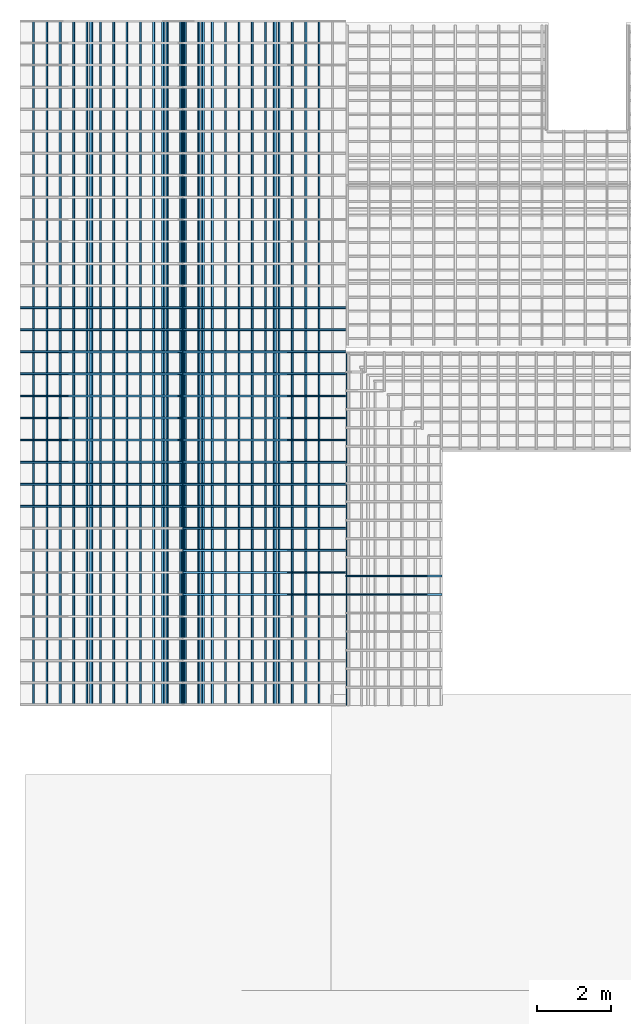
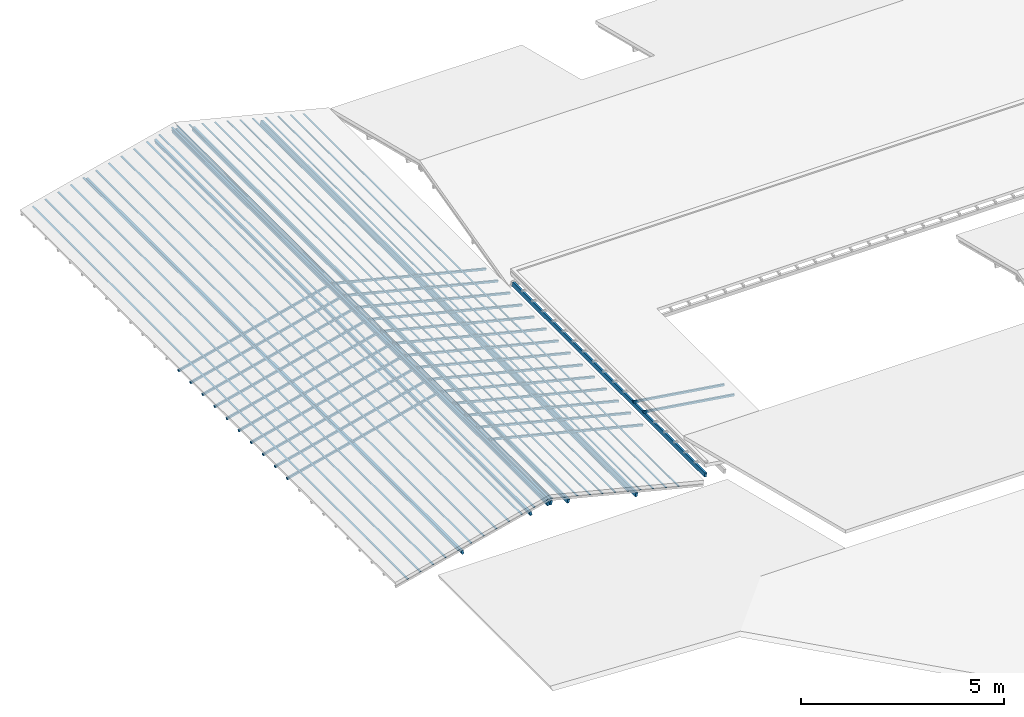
# One storey, part 3 of 10: 56 members, 5 elements without a shape of their own.
"""IFC2X3 building model written with IfcOpenShell, lengths in metres."""

import ifcopenshell
import ifcopenshell.guid

model = None  # the IFC model being written
_history = None  # IfcOwnerHistory: only IFC2X3 demands one
_inside = {}  # id of a spatial element -> (the spatial element, [elements in it])
_under = {}  # id of a project, library or spatial element -> (it, [spatial elements below it])
_declared = {}  # id of a project -> (the project, [libraries it declares])
_typed = {}  # id of a type object -> (the type object, [elements of that type])
_made_of = {}  # id of a material, layer set ... -> (it, [elements and type objects made of it])


def new_model(schema):
    """Start an empty IFC model of exactly this schema.

    Asked for "IFC4X3", IfcOpenShell would pick the latest addendum, in which some entities
    have other attributes; the version numbers below select the first issue.
    IFC2X3 requires an IfcOwnerHistory on every rooted entity: one is made here for all.
    """
    global model, _history
    if schema == "IFC4X3":
        model = ifcopenshell.file(schema_version=(4, 3, 0, 0))
    else:
        model = ifcopenshell.file(schema=schema)
    _inside.clear()
    _under.clear()
    _declared.clear()
    _typed.clear()
    _made_of.clear()
    _history = None
    if model.schema == "IFC2X3":
        org = make("IfcOrganization", Name="unknown")
        user = make(
            "IfcPersonAndOrganization",
            ThePerson=make("IfcPerson", FamilyName="unknown"),
            TheOrganization=org,
        )
        app = make(
            "IfcApplication",
            ApplicationDeveloper=org,
            Version="unknown",
            ApplicationFullName="unknown",
            ApplicationIdentifier="unknown",
        )
        _history = make(
            "IfcOwnerHistory",
            OwningUser=user,
            OwningApplication=app,
            ChangeAction="ADDED",
            CreationDate=0,
        )
    return model


def make(cls, **values):
    """One entity of the class cls with the attributes given. An attribute that is None is left unset."""
    return model.create_entity(
        cls, **{name: value for name, value in values.items() if value is not None}
    )


def entity(cls, *values):
    """Any entity or typed value of the class cls, its attributes in the order of the schema. None: left unset."""
    e = model.create_entity(cls)
    for i, value in enumerate(values):
        if value is not None:
            e[i] = value
    return e


def rooted(cls, **values):
    """An entity with a GlobalId (a new one), such as an element, a storey or a relation."""
    return make(cls, GlobalId=ifcopenshell.guid.new(), OwnerHistory=_history, **values)


def si_unit(unit_type, name, prefix=None):
    """IfcSIUnit, for example si_unit("LENGTHUNIT", "METRE", prefix="MILLI")."""
    return make("IfcSIUnit", UnitType=unit_type, Prefix=prefix, Name=name)


def converted_unit(unit_type, name, factor, base, dimensions=None, offset=None):
    """IfcConversionBasedUnit, such as the inch: factor (a typed value) times the base unit."""
    return make(
        "IfcConversionBasedUnit"
        if offset is None
        else "IfcConversionBasedUnitWithOffset",
        ConversionOffset=offset,
        Dimensions=None
        if dimensions is None
        else entity("IfcDimensionalExponents", *dimensions),
        UnitType=unit_type,
        Name=name,
        ConversionFactor=make(
            "IfcMeasureWithUnit", ValueComponent=factor, UnitComponent=base
        ),
    )


def derived_unit(unit_type, elements):
    """IfcDerivedUnit: a product of units, each with its exponent."""
    return make(
        "IfcDerivedUnit",
        Elements=[
            make("IfcDerivedUnitElement", Unit=unit, Exponent=power)
            for unit, power in elements
        ],
        UnitType=unit_type,
    )


def assignment(units):
    """IfcUnitAssignment: the units of a project."""
    return None if units is None else make("IfcUnitAssignment", Units=units)


def point(xyz):
    """IfcCartesianPoint."""
    return None if xyz is None else make("IfcCartesianPoint", Coordinates=xyz)


def direction(xyz):
    """IfcDirection."""
    return None if xyz is None else make("IfcDirection", DirectionRatios=xyz)


def frame(location, z_axis=None, x_axis=None):
    """IfcAxis2Placement3D, a coordinate frame: its origin and axes. An axis left out is left unset."""
    return make(
        "IfcAxis2Placement3D",
        Location=point(location),
        Axis=direction(z_axis),
        RefDirection=direction(x_axis),
    )


def frame_2d(location, x_axis=None):
    """IfcAxis2Placement2D, a coordinate frame in the plane: its origin and x axis."""
    return make(
        "IfcAxis2Placement2D", Location=point(location), RefDirection=direction(x_axis)
    )


def origin():
    """The frame at (0, 0, 0) with its axes left unset."""
    return frame((0.0, 0.0, 0.0))


def origin_2d_with_axis():
    """The frame at (0, 0) in the plane with the x axis (1, 0) written out."""
    return frame_2d((0.0, 0.0), x_axis=(1.0, 0.0))


def place(relative_to, where):
    """IfcLocalPlacement: puts the frame where relative to a parent placement (None: the world)."""
    return make(
        "IfcLocalPlacement", PlacementRelTo=relative_to, RelativePlacement=where
    )


def context(
    kind, dimensions, precision=None, world=None, true_north=None, identifier=None
):
    """IfcGeometricRepresentationContext, for example the 3D "Model" context."""
    return make(
        "IfcGeometricRepresentationContext",
        ContextIdentifier=identifier,
        ContextType=kind,
        CoordinateSpaceDimension=dimensions,
        Precision=precision,
        WorldCoordinateSystem=world,
        TrueNorth=true_north,
    )


def subcontext(parent, identifier, kind, view, scale=None):
    """IfcGeometricRepresentationSubContext, for example "Body" below "Model"."""
    return make(
        "IfcGeometricRepresentationSubContext",
        ContextIdentifier=identifier,
        ContextType=kind,
        ParentContext=parent,
        TargetScale=scale,
        TargetView=view,
    )


def project(units=None, contexts=None):
    """IfcProject with its units and contexts."""
    return rooted(
        "IfcProject",
        Name="project",
        RepresentationContexts=contexts,
        UnitsInContext=assignment(units),
    )


def spatial(cls, under=None, at=None, **own):
    """A site, building, storey or space (cls), placed at a placement, below another one or the project."""
    s = rooted(cls, ObjectPlacement=at, **own)
    if under is not None:
        _under.setdefault(under.id(), (under, []))[1].append(s)
    return s


def profile(cls, at=None, kind="AREA", **sizes):
    """A parametric profile (cls). Its sizes go by their IFC names, for example OverallWidth=200.0."""
    return make(cls, ProfileType=kind, Position=at, **sizes)


def rectangle(**sizes):
    """IfcRectangleProfileDef."""
    return profile("IfcRectangleProfileDef", **sizes)


def extrude(swept, where, along, depth):
    """IfcExtrudedAreaSolid: the profile swept, set in the frame where, extruded along a direction by depth."""
    return make(
        "IfcExtrudedAreaSolid",
        SweptArea=swept,
        Position=where,
        ExtrudedDirection=direction(along),
        Depth=depth,
    )


def clip(a, b, op="DIFFERENCE"):
    """IfcBooleanClippingResult: the solid a cut by the half space b."""
    return make(
        "IfcBooleanClippingResult", Operator=op, FirstOperand=a, SecondOperand=b
    )


def halfspace(plane, agree):
    """IfcHalfSpaceSolid: all space on one side of the plane z = 0 of the frame plane."""
    return make(
        "IfcHalfSpaceSolid",
        BaseSurface=make("IfcPlane", Position=plane),
        AgreementFlag=agree,
    )


def shape(context_of_items, identifier, shape_type, items):
    """IfcShapeRepresentation: the items that make up one representation, for example the "Body"."""
    return make(
        "IfcShapeRepresentation",
        ContextOfItems=context_of_items,
        RepresentationIdentifier=identifier,
        RepresentationType=shape_type,
        Items=items,
    )


def source(mapping_origin, context_of_items, identifier, shape_type, items):
    """IfcRepresentationMap: a shape defined once, which mapped items show again and again."""
    return make(
        "IfcRepresentationMap",
        MappingOrigin=mapping_origin,
        MappedRepresentation=shape(context_of_items, identifier, shape_type, items),
    )


def transform(
    local_origin,
    x_axis=None,
    y_axis=None,
    z_axis=None,
    scale=None,
    scale2=None,
    scale3=None,
    uniform=True,
):
    """IfcCartesianTransformationOperator3D, or its non-uniform kind. x_axis, y_axis, z_axis: its Axis1, 2, 3."""
    if uniform:
        return make(
            "IfcCartesianTransformationOperator3D",
            Axis1=direction(x_axis),
            Axis2=direction(y_axis),
            LocalOrigin=point(local_origin),
            Scale=scale,
            Axis3=direction(z_axis),
        )
    return make(
        "IfcCartesianTransformationOperator3DnonUniform",
        Axis1=direction(x_axis),
        Axis2=direction(y_axis),
        LocalOrigin=point(local_origin),
        Scale=scale,
        Axis3=direction(z_axis),
        Scale2=scale2,
        Scale3=scale3,
    )


def mapped(mapping_source, mapping_target):
    """IfcMappedItem: shows the shape of a source again, moved by a transform."""
    return make(
        "IfcMappedItem", MappingSource=mapping_source, MappingTarget=mapping_target
    )


def material(Name=None, Category=None):
    """IfcMaterial."""
    return make("IfcMaterial", Name=Name, Category=Category)


def made_of(thing, what):
    """Note that an element or type object is made of a material, layer set ...; save() writes the relation."""
    if what is not None:
        _made_of.setdefault(what.id(), (what, []))[1].append(thing)
    return thing


def type_object(cls, material=None, **own):
    """A type object (cls), such as IfcWallType, which elements share."""
    return made_of(rooted(cls, **own), material)


def type_shapes(of_type, sources):
    """Give a type object the sources (RepresentationMaps) that its elements show as mapped items."""
    of_type.RepresentationMaps = sources


def element(
    cls,
    number,
    at=None,
    inside=None,
    cuts=None,
    type_object=None,
    material=None,
    context=None,
    identifier="Body",
    shape_type=None,
    held_by="IfcProductDefinitionShape",
    body=None,
    shapes=None,
    **own,
):
    """One element of the class cls, such as IfcWall. Its Tag is "e" and its number.

    at: its placement. inside: the storey or other place that contains it. cuts: it is an
    opening in that element (IfcRelVoidsElement). A single representation is given by context,
    identifier, shape_type and body (its items); several are given by shapes. held_by: the class
    of the entity that holds the representations. save() writes the other relations.
    """
    e = rooted(cls, Tag="e%d" % number, ObjectPlacement=at, **own)
    if body is not None:
        shapes = [shape(context, identifier, shape_type, body)]
    if shapes is not None:
        e.Representation = make(held_by, Representations=shapes)
    if inside is not None:
        _inside.setdefault(inside.id(), (inside, []))[1].append(e)
    if cuts is not None:
        rooted(
            "IfcRelVoidsElement", RelatingBuildingElement=cuts, RelatedOpeningElement=e
        )
    if type_object is not None:
        _typed.setdefault(type_object.id(), (type_object, []))[1].append(e)
    return made_of(e, material)


def aggregate(whole, parts):
    """IfcRelAggregates: a whole, such as a stair, and the parts it consists of."""
    return rooted("IfcRelAggregates", RelatingObject=whole, RelatedObjects=parts)


def save(model, path):
    """Write the relations noted so far, then the file.

    IfcRelAggregates (storeys below a building ...), IfcRelContainedInSpatialStructure (elements
    in a storey), IfcRelDefinesByType, IfcRelAssociatesMaterial and IfcRelDeclares: one each for
    every whole, place, type object, material and project.
    """
    for whole, parts in _under.values():
        aggregate(whole, parts)
    for where, things in _inside.values():
        rooted(
            "IfcRelContainedInSpatialStructure",
            RelatedElements=things,
            RelatingStructure=where,
        )
    for kind, things in _typed.values():
        rooted("IfcRelDefinesByType", RelatedObjects=things, RelatingType=kind)
    for what, things in _made_of.values():
        rooted("IfcRelAssociatesMaterial", RelatedObjects=things, RelatingMaterial=what)
    for by, libraries in _declared.values():
        rooted("IfcRelDeclares", RelatingContext=by, RelatedDefinitions=libraries)
    model.write(path)


model = new_model("IFC2X3")

# Units and contexts
model_context = context("Model", 3, precision=1e-05, world=origin(), true_north=direction((6.12303176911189e-17, 1.0)))
body_context = subcontext(model_context, "Body", "Model", "MODEL_VIEW")
ifc_project = project(units=[si_unit("LENGTHUNIT", "METRE"), si_unit("AREAUNIT", "SQUARE_METRE"), si_unit("VOLUMEUNIT", "CUBIC_METRE"), converted_unit("PLANEANGLEUNIT", "DEGREE", entity("IfcRatioMeasure", 0.0174532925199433), si_unit("PLANEANGLEUNIT", "RADIAN"), dimensions=[0, 0, 0, 0, 0, 0, 0]), si_unit("MASSUNIT", "GRAM", prefix="KILO"), derived_unit("MASSDENSITYUNIT", [(si_unit("MASSUNIT", "GRAM", prefix="KILO"), 1), (si_unit("LENGTHUNIT", "METRE"), -3)]), si_unit("TIMEUNIT", "SECOND"), si_unit("FREQUENCYUNIT", "HERTZ"), si_unit("THERMODYNAMICTEMPERATUREUNIT", "DEGREE_CELSIUS"), derived_unit("THERMALTRANSMITTANCEUNIT", [(si_unit("MASSUNIT", "GRAM", prefix="KILO"), 1), (si_unit("THERMODYNAMICTEMPERATUREUNIT", "KELVIN"), -1), (si_unit("TIMEUNIT", "SECOND"), -3)]), derived_unit("VOLUMETRICFLOWRATEUNIT", [(si_unit("LENGTHUNIT", "METRE"), 3), (si_unit("TIMEUNIT", "SECOND"), -1)]), si_unit("ELECTRICCURRENTUNIT", "AMPERE"), si_unit("ELECTRICVOLTAGEUNIT", "VOLT"), si_unit("POWERUNIT", "WATT"), si_unit("FORCEUNIT", "NEWTON", prefix="KILO"), si_unit("ILLUMINANCEUNIT", "LUX"), si_unit("LUMINOUSFLUXUNIT", "LUMEN"), si_unit("LUMINOUSINTENSITYUNIT", "CANDELA"), derived_unit("USERDEFINED", [(si_unit("MASSUNIT", "GRAM", prefix="KILO"), -1), (si_unit("LENGTHUNIT", "METRE"), -2), (si_unit("TIMEUNIT", "SECOND"), 3), (si_unit("LUMINOUSFLUXUNIT", "LUMEN"), 1)]), derived_unit("LINEARVELOCITYUNIT", [(si_unit("LENGTHUNIT", "METRE"), 1), (si_unit("TIMEUNIT", "SECOND"), -1)]), si_unit("PRESSUREUNIT", "PASCAL"), derived_unit("USERDEFINED", [(si_unit("LENGTHUNIT", "METRE"), -2), (si_unit("MASSUNIT", "GRAM", prefix="KILO"), 1), (si_unit("TIMEUNIT", "SECOND"), -2)])], contexts=[model_context])

# Site, building, storey
site_placement = place(None, frame((26.9889013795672, -17.5624287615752, 0.0)))
site = spatial("IfcSite", under=ifc_project, at=site_placement, Name="Default", CompositionType="ELEMENT")
building_placement = place(site_placement, origin())
building = spatial("IfcBuilding", under=site, at=building_placement, Name="C. C. L. Monsenhor Antônio Sampaio", CompositionType="ELEMENT")
storey_placement = place(building_placement, frame((0.0, 0.0, 4.3)))
storey = spatial("IfcBuildingStorey", under=building, at=storey_placement, Name="COBERTURA BLOCO 01", CompositionType="ELEMENT", Elevation=4.3)

# Roof, members
curtain_wall_type_1 = type_object("IfcCurtainWallType", PredefinedType="NOTDEFINED")
roof_1_placement = place(storey_placement, frame((0.0, 0.0, -4.3)))
roof_1 = element("IfcRoof", 1, at=roof_1_placement, inside=storey, type_object=curtain_wall_type_1, ShapeType="NOTDEFINED")
ifc_material = material(Name=".Madeira")
member_type_1 = type_object("IfcMemberType", Name="Terça", PredefinedType="MEMBER")
shared_shape_1 = source(origin(), body_context, "Body", "SweptSolid", [
    extrude(rectangle(XDim=0.12, YDim=0.0599999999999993, at=origin_2d_with_axis()), frame((-0.0299999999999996, -0.06, -18.4961739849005), z_axis=(0.0, 0.0, 1.0), x_axis=(0.0, -1.0, 0.0)), (0.0, 0.0, 1.0), 18.4961739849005),
])
type_shapes(member_type_1, [shared_shape_1])
member_1_placement = place(storey_placement, frame((-10.2441903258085, -7.95689236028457, 1.09909049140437), z_axis=(0.0, 1.0, 0.0), x_axis=(0.970142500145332, 0.0, 0.242535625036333)))
member_1 = element("IfcMember", 2, at=member_1_placement, type_object=member_type_1, material=ifc_material, Name="Rectangular Mullion:Terça", ObjectType="Terça", context=body_context, shape_type="MappedRepresentation", body=[
    mapped(shared_shape_1, transform((0.0, 0.0, 0.0), scale=1.0)),
])
member_2_placement = place(storey_placement, frame((-10.2441903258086, -26.4530663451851, 1.09909049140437), z_axis=(0.0, -1.0, 0.0), x_axis=(-0.970142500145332, 0.0, 0.242535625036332)))
member_2 = element("IfcMember", 3, at=member_2_placement, type_object=member_type_1, material=ifc_material, Name="Rectangular Mullion:Terça", ObjectType="Terça", context=body_context, shape_type="MappedRepresentation", body=[
    mapped(shared_shape_1, transform((0.0, 0.0, 0.0), scale=1.0)),
])
member_type_2 = type_object("IfcMemberType", Name="Terça", PredefinedType="MEMBER")
shared_shape_2 = source(origin(), body_context, "Body", "SweptSolid", [
    extrude(rectangle(XDim=0.12, YDim=0.0599999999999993, at=origin_2d_with_axis()), frame((0.0, -0.06, -18.4961739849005), z_axis=(0.0, 0.0, 1.0), x_axis=(0.0, -1.0, 0.0)), (0.0, 0.0, 1.0), 18.4961739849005),
])
type_shapes(member_type_2, [shared_shape_2])
member_3_placement = place(storey_placement, frame((-12.7051180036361, -7.95689236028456, 0.483858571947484), z_axis=(0.0, 1.0, 0.0), x_axis=(0.970142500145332, 0.0, 0.242535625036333)))
member_3 = element("IfcMember", 4, at=member_3_placement, type_object=member_type_2, material=ifc_material, Name="Rectangular Mullion:Terça", ObjectType="Terça", context=body_context, shape_type="MappedRepresentation", body=[
    mapped(shared_shape_2, transform((0.0, 0.0, 0.0), scale=1.0)),
])
member_4_placement = place(storey_placement, frame((-10.7648330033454, -7.95689236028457, 0.96892982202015), z_axis=(0.0, 1.0, 0.0), x_axis=(0.970142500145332, 0.0, 0.242535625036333)))
member_4 = element("IfcMember", 5, at=member_4_placement, type_object=member_type_2, material=ifc_material, Name="Rectangular Mullion:Terça", ObjectType="Terça", context=body_context, shape_type="MappedRepresentation", body=[
    mapped(shared_shape_2, transform((0.0, 0.0, 0.0), scale=1.0)),
])
member_5_placement = place(storey_placement, frame((-7.783262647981, -26.4530663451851, 0.483858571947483), z_axis=(0.0, -1.0, 0.0), x_axis=(-0.970142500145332, 0.0, 0.242535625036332)))
member_5 = element("IfcMember", 6, at=member_5_placement, type_object=member_type_2, material=ifc_material, Name="Rectangular Mullion:Terça", ObjectType="Terça", context=body_context, shape_type="MappedRepresentation", body=[
    mapped(shared_shape_2, transform((0.0, 0.0, 0.0), scale=1.0)),
])
member_6_placement = place(storey_placement, frame((-9.72354764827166, -26.4530663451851, 0.968929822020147), z_axis=(0.0, -1.0, 0.0), x_axis=(-0.970142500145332, 0.0, 0.242535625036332)))
member_6 = element("IfcMember", 7, at=member_6_placement, type_object=member_type_2, material=ifc_material, Name="Rectangular Mullion:Terça", ObjectType="Terça", context=body_context, shape_type="MappedRepresentation", body=[
    mapped(shared_shape_2, transform((0.0, 0.0, 0.0), scale=1.0)),
])
aggregate(roof_1, [member_1, member_3, member_4, member_2, member_5, member_6])

# Roof, member
roof_2_placement = place(storey_placement, frame((0.0, 0.0, -4.3)))
roof_2 = element("IfcRoof", 8, at=roof_2_placement, inside=storey, type_object=curtain_wall_type_1, ShapeType="NOTDEFINED")
member_type_3 = type_object("IfcMemberType", Name="Terça", PredefinedType="MEMBER")
shared_shape_3 = source(origin(), body_context, "Body", "SweptSolid", [
    extrude(rectangle(XDim=0.12, YDim=0.0599999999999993, at=origin_2d_with_axis()), frame((-0.0299999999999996, -0.06, -9.5), z_axis=(0.0, 0.0, 1.0), x_axis=(0.0, -1.0, 0.0)), (0.0, 0.0, 1.0), 9.5),
])
type_shapes(member_type_3, [shared_shape_3])
member_7_placement = place(storey_placement, frame((-5.84055229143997, -26.4530663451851, 0.390000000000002), z_axis=(0.0, -1.0, 0.0), x_axis=(-0.988936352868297, 0.0, 0.148340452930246)))
member_7 = element("IfcMember", 9, at=member_7_placement, type_object=member_type_3, material=ifc_material, Name="Rectangular Mullion:Terça", ObjectType="Terça", context=body_context, shape_type="MappedRepresentation", body=[
    mapped(shared_shape_3, transform((0.0, 0.0, 0.0), scale=1.0)),
])
aggregate(roof_2, [member_7])

# Roof, members
curtain_wall_type_2 = type_object("IfcCurtainWallType", PredefinedType="NOTDEFINED")
roof_3_placement = place(storey_placement, frame((0.0, 0.0, -4.3)))
roof_3 = element("IfcRoof", 10, at=roof_3_placement, inside=storey, type_object=curtain_wall_type_2, ShapeType="NOTDEFINED")
member_type_4 = type_object("IfcMemberType", Name="Ripa", PredefinedType="MEMBER")
shared_shape_4 = source(origin(), body_context, "Body", "SweptSolid", [
    extrude(rectangle(XDim=0.015, YDim=0.05, at=frame_2d((-1.69135538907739e-17, 0.0), x_axis=(1.0, 0.0))), frame((-0.025, -0.1875, -18.4961739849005), z_axis=(0.0, 0.0, 1.0), x_axis=(0.0, -1.0, 0.0)), (0.0, 0.0, 1.0), 18.4961739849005),
])
type_shapes(member_type_4, [shared_shape_4])
member_8_placement = place(storey_placement, frame((-10.2441903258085, -7.95689236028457, 1.0984181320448), z_axis=(0.0, 1.0, 0.0), x_axis=(0.970142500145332, 0.0, 0.242535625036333)))
member_8 = element("IfcMember", 11, at=member_8_placement, type_object=member_type_4, material=ifc_material, Name="Rectangular Mullion:Ripa", ObjectType="Ripa", context=body_context, shape_type="MappedRepresentation", body=[
    mapped(shared_shape_4, transform((0.0, 0.0, 0.0), scale=1.0)),
])
member_9_placement = place(storey_placement, frame((-10.2441903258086, -26.4530663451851, 1.0984181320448), z_axis=(0.0, -1.0, 0.0), x_axis=(-0.970142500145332, 0.0, 0.242535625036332)))
member_9 = element("IfcMember", 12, at=member_9_placement, type_object=member_type_4, material=ifc_material, Name="Rectangular Mullion:Ripa", ObjectType="Ripa", context=body_context, shape_type="MappedRepresentation", body=[
    mapped(shared_shape_4, transform((0.0, 0.0, 0.0), scale=1.0)),
])
member_type_5 = type_object("IfcMemberType", Name="Ripa", PredefinedType="MEMBER")
shared_shape_5 = source(origin(), body_context, "Body", "SweptSolid", [
    extrude(rectangle(XDim=0.015, YDim=0.05, at=frame_2d((-1.69135538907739e-17, 0.0), x_axis=(1.0, 0.0))), frame((0.025, -0.1875, -18.4961739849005), z_axis=(0.0, 0.0, 1.0), x_axis=(0.0, -1.0, 0.0)), (0.0, 0.0, 1.0), 18.4961739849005),
])
type_shapes(member_type_5, [shared_shape_5])
member_10_placement = place(storey_placement, frame((-14.2559986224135, -7.95689236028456, 0.095466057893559), z_axis=(0.0, 1.0, 0.0), x_axis=(0.970142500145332, 0.0, 0.242535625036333)))
member_10 = element("IfcMember", 13, at=member_10_placement, type_object=member_type_5, material=ifc_material, Name="Rectangular Mullion:Ripa", ObjectType="Ripa", context=body_context, shape_type="MappedRepresentation", body=[
    mapped(shared_shape_5, transform((0.0, 0.0, 0.0), scale=1.0)),
])
member_11_placement = place(storey_placement, frame((-13.8956985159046, -7.95689236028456, 0.185541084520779), z_axis=(0.0, 1.0, 0.0), x_axis=(0.970142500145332, 0.0, 0.242535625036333)))
member_11 = element("IfcMember", 14, at=member_11_placement, type_object=member_type_5, material=ifc_material, Name="Rectangular Mullion:Ripa", ObjectType="Ripa", context=body_context, shape_type="MappedRepresentation", body=[
    mapped(shared_shape_5, transform((0.0, 0.0, 0.0), scale=1.0)),
])
member_12_placement = place(storey_placement, frame((-13.5353984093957, -7.95689236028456, 0.275616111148), z_axis=(0.0, 1.0, 0.0), x_axis=(0.970142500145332, 0.0, 0.242535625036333)))
member_12 = element("IfcMember", 15, at=member_12_placement, type_object=member_type_5, material=ifc_material, Name="Rectangular Mullion:Ripa", ObjectType="Ripa", context=body_context, shape_type="MappedRepresentation", body=[
    mapped(shared_shape_5, transform((0.0, 0.0, 0.0), scale=1.0)),
])
member_13_placement = place(storey_placement, frame((-13.1750983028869, -7.95689236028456, 0.36569113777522), z_axis=(0.0, 1.0, 0.0), x_axis=(0.970142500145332, 0.0, 0.242535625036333)))
member_13 = element("IfcMember", 16, at=member_13_placement, type_object=member_type_5, material=ifc_material, Name="Rectangular Mullion:Ripa", ObjectType="Ripa", context=body_context, shape_type="MappedRepresentation", body=[
    mapped(shared_shape_5, transform((0.0, 0.0, 0.0), scale=1.0)),
])
member_14_placement = place(storey_placement, frame((-12.814798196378, -7.95689236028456, 0.455766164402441), z_axis=(0.0, 1.0, 0.0), x_axis=(0.970142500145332, 0.0, 0.242535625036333)))
member_14 = element("IfcMember", 17, at=member_14_placement, type_object=member_type_5, material=ifc_material, Name="Rectangular Mullion:Ripa", ObjectType="Ripa", context=body_context, shape_type="MappedRepresentation", body=[
    mapped(shared_shape_5, transform((0.0, 0.0, 0.0), scale=1.0)),
])
member_15_placement = place(storey_placement, frame((-12.4544980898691, -7.95689236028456, 0.545841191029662), z_axis=(0.0, 1.0, 0.0), x_axis=(0.970142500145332, 0.0, 0.242535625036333)))
member_15 = element("IfcMember", 18, at=member_15_placement, type_object=member_type_5, material=ifc_material, Name="Rectangular Mullion:Ripa", ObjectType="Ripa", context=body_context, shape_type="MappedRepresentation", body=[
    mapped(shared_shape_5, transform((0.0, 0.0, 0.0), scale=1.0)),
])
member_16_placement = place(storey_placement, frame((-12.0941979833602, -7.95689236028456, 0.635916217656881), z_axis=(0.0, 1.0, 0.0), x_axis=(0.970142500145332, 0.0, 0.242535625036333)))
member_16 = element("IfcMember", 19, at=member_16_placement, type_object=member_type_5, material=ifc_material, Name="Rectangular Mullion:Ripa", ObjectType="Ripa", context=body_context, shape_type="MappedRepresentation", body=[
    mapped(shared_shape_5, transform((0.0, 0.0, 0.0), scale=1.0)),
])
member_17_placement = place(storey_placement, frame((-11.7338978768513, -7.95689236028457, 0.725991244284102), z_axis=(0.0, 1.0, 0.0), x_axis=(0.970142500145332, 0.0, 0.242535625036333)))
member_17 = element("IfcMember", 20, at=member_17_placement, type_object=member_type_5, material=ifc_material, Name="Rectangular Mullion:Ripa", ObjectType="Ripa", context=body_context, shape_type="MappedRepresentation", body=[
    mapped(shared_shape_5, transform((0.0, 0.0, 0.0), scale=1.0)),
])
member_18_placement = place(storey_placement, frame((-11.3735977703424, -7.95689236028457, 0.816066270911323), z_axis=(0.0, 1.0, 0.0), x_axis=(0.970142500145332, 0.0, 0.242535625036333)))
member_18 = element("IfcMember", 21, at=member_18_placement, type_object=member_type_5, material=ifc_material, Name="Rectangular Mullion:Ripa", ObjectType="Ripa", context=body_context, shape_type="MappedRepresentation", body=[
    mapped(shared_shape_5, transform((0.0, 0.0, 0.0), scale=1.0)),
])
member_19_placement = place(storey_placement, frame((-11.0132976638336, -7.95689236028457, 0.906141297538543), z_axis=(0.0, 1.0, 0.0), x_axis=(0.970142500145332, 0.0, 0.242535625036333)))
member_19 = element("IfcMember", 22, at=member_19_placement, type_object=member_type_5, material=ifc_material, Name="Rectangular Mullion:Ripa", ObjectType="Ripa", context=body_context, shape_type="MappedRepresentation", body=[
    mapped(shared_shape_5, transform((0.0, 0.0, 0.0), scale=1.0)),
])
member_20_placement = place(storey_placement, frame((-10.6529975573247, -7.95689236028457, 0.996216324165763), z_axis=(0.0, 1.0, 0.0), x_axis=(0.970142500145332, 0.0, 0.242535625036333)))
member_20 = element("IfcMember", 23, at=member_20_placement, type_object=member_type_5, material=ifc_material, Name="Rectangular Mullion:Ripa", ObjectType="Ripa", context=body_context, shape_type="MappedRepresentation", body=[
    mapped(shared_shape_5, transform((0.0, 0.0, 0.0), scale=1.0)),
])
member_21_placement = place(storey_placement, frame((-6.59268213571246, -26.4530663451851, 0.18554108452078), z_axis=(0.0, -1.0, 0.0), x_axis=(-0.970142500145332, 0.0, 0.242535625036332)))
member_21 = element("IfcMember", 24, at=member_21_placement, type_object=member_type_5, material=ifc_material, Name="Rectangular Mullion:Ripa", ObjectType="Ripa", context=body_context, shape_type="MappedRepresentation", body=[
    mapped(shared_shape_5, transform((0.0, 0.0, 0.0), scale=1.0)),
])
member_22_placement = place(storey_placement, frame((-6.95298224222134, -26.4530663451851, 0.275616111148), z_axis=(0.0, -1.0, 0.0), x_axis=(-0.970142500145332, 0.0, 0.242535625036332)))
member_22 = element("IfcMember", 25, at=member_22_placement, type_object=member_type_5, material=ifc_material, Name="Rectangular Mullion:Ripa", ObjectType="Ripa", context=body_context, shape_type="MappedRepresentation", body=[
    mapped(shared_shape_5, transform((0.0, 0.0, 0.0), scale=1.0)),
])
member_23_placement = place(storey_placement, frame((-7.31328234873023, -26.4530663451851, 0.365691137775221), z_axis=(0.0, -1.0, 0.0), x_axis=(-0.970142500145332, 0.0, 0.242535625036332)))
member_23 = element("IfcMember", 26, at=member_23_placement, type_object=member_type_5, material=ifc_material, Name="Rectangular Mullion:Ripa", ObjectType="Ripa", context=body_context, shape_type="MappedRepresentation", body=[
    mapped(shared_shape_5, transform((0.0, 0.0, 0.0), scale=1.0)),
])
member_24_placement = place(storey_placement, frame((-7.67358245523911, -26.4530663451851, 0.455766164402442), z_axis=(0.0, -1.0, 0.0), x_axis=(-0.970142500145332, 0.0, 0.242535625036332)))
member_24 = element("IfcMember", 27, at=member_24_placement, type_object=member_type_5, material=ifc_material, Name="Rectangular Mullion:Ripa", ObjectType="Ripa", context=body_context, shape_type="MappedRepresentation", body=[
    mapped(shared_shape_5, transform((0.0, 0.0, 0.0), scale=1.0)),
])
member_25_placement = place(storey_placement, frame((-8.03388256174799, -26.4530663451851, 0.545841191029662), z_axis=(0.0, -1.0, 0.0), x_axis=(-0.970142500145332, 0.0, 0.242535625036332)))
member_25 = element("IfcMember", 28, at=member_25_placement, type_object=member_type_5, material=ifc_material, Name="Rectangular Mullion:Ripa", ObjectType="Ripa", context=body_context, shape_type="MappedRepresentation", body=[
    mapped(shared_shape_5, transform((0.0, 0.0, 0.0), scale=1.0)),
])
member_26_placement = place(storey_placement, frame((-8.39418266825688, -26.4530663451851, 0.635916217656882), z_axis=(0.0, -1.0, 0.0), x_axis=(-0.970142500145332, 0.0, 0.242535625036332)))
member_26 = element("IfcMember", 29, at=member_26_placement, type_object=member_type_5, material=ifc_material, Name="Rectangular Mullion:Ripa", ObjectType="Ripa", context=body_context, shape_type="MappedRepresentation", body=[
    mapped(shared_shape_5, transform((0.0, 0.0, 0.0), scale=1.0)),
])
member_27_placement = place(storey_placement, frame((-8.75448277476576, -26.4530663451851, 0.725991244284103), z_axis=(0.0, -1.0, 0.0), x_axis=(-0.970142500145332, 0.0, 0.242535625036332)))
member_27 = element("IfcMember", 30, at=member_27_placement, type_object=member_type_5, material=ifc_material, Name="Rectangular Mullion:Ripa", ObjectType="Ripa", context=body_context, shape_type="MappedRepresentation", body=[
    mapped(shared_shape_5, transform((0.0, 0.0, 0.0), scale=1.0)),
])
member_28_placement = place(storey_placement, frame((-9.11478288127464, -26.4530663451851, 0.816066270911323), z_axis=(0.0, -1.0, 0.0), x_axis=(-0.970142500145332, 0.0, 0.242535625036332)))
member_28 = element("IfcMember", 31, at=member_28_placement, type_object=member_type_5, material=ifc_material, Name="Rectangular Mullion:Ripa", ObjectType="Ripa", context=body_context, shape_type="MappedRepresentation", body=[
    mapped(shared_shape_5, transform((0.0, 0.0, 0.0), scale=1.0)),
])
member_29_placement = place(storey_placement, frame((-9.47508298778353, -26.4530663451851, 0.906141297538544), z_axis=(0.0, -1.0, 0.0), x_axis=(-0.970142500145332, 0.0, 0.242535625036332)))
member_29 = element("IfcMember", 32, at=member_29_placement, type_object=member_type_5, material=ifc_material, Name="Rectangular Mullion:Ripa", ObjectType="Ripa", context=body_context, shape_type="MappedRepresentation", body=[
    mapped(shared_shape_5, transform((0.0, 0.0, 0.0), scale=1.0)),
])
member_30_placement = place(storey_placement, frame((-9.83538309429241, -26.4530663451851, 0.996216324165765), z_axis=(0.0, -1.0, 0.0), x_axis=(-0.970142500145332, 0.0, 0.242535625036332)))
member_30 = element("IfcMember", 33, at=member_30_placement, type_object=member_type_5, material=ifc_material, Name="Rectangular Mullion:Ripa", ObjectType="Ripa", context=body_context, shape_type="MappedRepresentation", body=[
    mapped(shared_shape_5, transform((0.0, 0.0, 0.0), scale=1.0)),
])
aggregate(roof_3, [member_8, member_10, member_11, member_12, member_13, member_14, member_15, member_16, member_17, member_18, member_19, member_20, member_9, member_21, member_22, member_23, member_24, member_25, member_26, member_27, member_28, member_29, member_30])

curtain_wall_type_3 = type_object("IfcCurtainWallType", PredefinedType="NOTDEFINED")
roof_4_placement = place(storey_placement, frame((0.0, 0.0, -4.3)))
roof_4 = element("IfcRoof", 34, at=roof_4_placement, inside=storey, type_object=curtain_wall_type_3, ShapeType="NOTDEFINED")
member_type_6 = type_object("IfcMemberType", Name="Caibro", PredefinedType="MEMBER")
shared_shape_6 = source(origin(), body_context, "Body", "Clipping", [
    clip(extrude(rectangle(XDim=0.06, YDim=0.0499999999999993, at=origin_2d_with_axis()), frame((0.0, -0.03, -4.50666618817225), z_axis=(0.0, 0.0, 1.0), x_axis=(0.0, -1.0, 0.0)), (0.0, 0.0, 1.0), 4.52166618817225), halfspace(frame((-0.3048, 0.0, 0.0), z_axis=(0.0, 0.242535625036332, 0.970142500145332), x_axis=(0.0, 0.970142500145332, -0.242535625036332)), False)),
])
type_shapes(member_type_6, [shared_shape_6])
member_31_placement = place(storey_placement, frame((-10.2441903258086, -23.4528769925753, 1.22274577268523), z_axis=(-0.970142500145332, 0.0, 0.242535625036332), x_axis=(0.0, 1.0, 0.0)))
member_31 = element("IfcMember", 35, at=member_31_placement, type_object=member_type_6, material=ifc_material, Name="Rectangular Mullion:Caibro", ObjectType="Caibro", context=body_context, shape_type="MappedRepresentation", body=[
    mapped(shared_shape_6, transform((0.0, 0.0, 0.0), scale=1.0)),
])
member_32_placement = place(storey_placement, frame((-10.2441903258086, -22.8578391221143, 1.22274577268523), z_axis=(-0.970142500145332, 0.0, 0.242535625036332), x_axis=(0.0, 1.0, 0.0)))
member_32 = element("IfcMember", 36, at=member_32_placement, type_object=member_type_6, material=ifc_material, Name="Rectangular Mullion:Caibro", ObjectType="Caibro", context=body_context, shape_type="MappedRepresentation", body=[
    mapped(shared_shape_6, transform((0.0, 0.0, 0.0), scale=1.0)),
])
member_33_placement = place(storey_placement, frame((-10.2441903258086, -22.2628012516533, 1.22274577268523), z_axis=(-0.970142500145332, 0.0, 0.242535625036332), x_axis=(0.0, 1.0, 0.0)))
member_33 = element("IfcMember", 37, at=member_33_placement, type_object=member_type_6, material=ifc_material, Name="Rectangular Mullion:Caibro", ObjectType="Caibro", context=body_context, shape_type="MappedRepresentation", body=[
    mapped(shared_shape_6, transform((0.0, 0.0, 0.0), scale=1.0)),
])
member_34_placement = place(storey_placement, frame((-10.2441903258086, -21.6677633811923, 1.22274577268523), z_axis=(-0.970142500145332, 0.0, 0.242535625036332), x_axis=(0.0, 1.0, 0.0)))
member_34 = element("IfcMember", 38, at=member_34_placement, type_object=member_type_6, material=ifc_material, Name="Rectangular Mullion:Caibro", ObjectType="Caibro", context=body_context, shape_type="MappedRepresentation", body=[
    mapped(shared_shape_6, transform((0.0, 0.0, 0.0), scale=1.0)),
])
member_35_placement = place(storey_placement, frame((-10.2441903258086, -21.0727255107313, 1.22274577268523), z_axis=(-0.970142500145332, 0.0, 0.242535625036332), x_axis=(0.0, 1.0, 0.0)))
member_35 = element("IfcMember", 39, at=member_35_placement, type_object=member_type_6, material=ifc_material, Name="Rectangular Mullion:Caibro", ObjectType="Caibro", context=body_context, shape_type="MappedRepresentation", body=[
    mapped(shared_shape_6, transform((0.0, 0.0, 0.0), scale=1.0)),
])
member_36_placement = place(storey_placement, frame((-10.2441903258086, -20.4776876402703, 1.22274577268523), z_axis=(-0.970142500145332, 0.0, 0.242535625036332), x_axis=(0.0, 1.0, 0.0)))
member_36 = element("IfcMember", 40, at=member_36_placement, type_object=member_type_6, material=ifc_material, Name="Rectangular Mullion:Caibro", ObjectType="Caibro", context=body_context, shape_type="MappedRepresentation", body=[
    mapped(shared_shape_6, transform((0.0, 0.0, 0.0), scale=1.0)),
])
member_37_placement = place(storey_placement, frame((-10.2441903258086, -19.8826497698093, 1.22274577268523), z_axis=(-0.970142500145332, 0.0, 0.242535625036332), x_axis=(0.0, 1.0, 0.0)))
member_37 = element("IfcMember", 41, at=member_37_placement, type_object=member_type_6, material=ifc_material, Name="Rectangular Mullion:Caibro", ObjectType="Caibro", context=body_context, shape_type="MappedRepresentation", body=[
    mapped(shared_shape_6, transform((0.0, 0.0, 0.0), scale=1.0)),
])
member_38_placement = place(storey_placement, frame((-10.2441903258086, -19.2876118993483, 1.22274577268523), z_axis=(-0.970142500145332, 0.0, 0.242535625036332), x_axis=(0.0, 1.0, 0.0)))
member_38 = element("IfcMember", 42, at=member_38_placement, type_object=member_type_6, material=ifc_material, Name="Rectangular Mullion:Caibro", ObjectType="Caibro", context=body_context, shape_type="MappedRepresentation", body=[
    mapped(shared_shape_6, transform((0.0, 0.0, 0.0), scale=1.0)),
])
member_39_placement = place(storey_placement, frame((-10.2441903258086, -18.6925740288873, 1.22274577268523), z_axis=(-0.970142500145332, 0.0, 0.242535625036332), x_axis=(0.0, 1.0, 0.0)))
member_39 = element("IfcMember", 43, at=member_39_placement, type_object=member_type_6, material=ifc_material, Name="Rectangular Mullion:Caibro", ObjectType="Caibro", context=body_context, shape_type="MappedRepresentation", body=[
    mapped(shared_shape_6, transform((0.0, 0.0, 0.0), scale=1.0)),
])
member_40_placement = place(storey_placement, frame((-10.2441903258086, -18.0975361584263, 1.22274577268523), z_axis=(-0.970142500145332, 0.0, 0.242535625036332), x_axis=(0.0, 1.0, 0.0)))
member_40 = element("IfcMember", 44, at=member_40_placement, type_object=member_type_6, material=ifc_material, Name="Rectangular Mullion:Caibro", ObjectType="Caibro", context=body_context, shape_type="MappedRepresentation", body=[
    mapped(shared_shape_6, transform((0.0, 0.0, 0.0), scale=1.0)),
])
member_41_placement = place(storey_placement, frame((-10.2441903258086, -17.5024982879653, 1.22274577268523), z_axis=(-0.970142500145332, 0.0, 0.242535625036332), x_axis=(0.0, 1.0, 0.0)))
member_41 = element("IfcMember", 45, at=member_41_placement, type_object=member_type_6, material=ifc_material, Name="Rectangular Mullion:Caibro", ObjectType="Caibro", context=body_context, shape_type="MappedRepresentation", body=[
    mapped(shared_shape_6, transform((0.0, 0.0, 0.0), scale=1.0)),
])
member_42_placement = place(storey_placement, frame((-10.2441903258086, -16.9074604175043, 1.22274577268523), z_axis=(-0.970142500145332, 0.0, 0.242535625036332), x_axis=(0.0, 1.0, 0.0)))
member_42 = element("IfcMember", 46, at=member_42_placement, type_object=member_type_6, material=ifc_material, Name="Rectangular Mullion:Caibro", ObjectType="Caibro", context=body_context, shape_type="MappedRepresentation", body=[
    mapped(shared_shape_6, transform((0.0, 0.0, 0.0), scale=1.0)),
])
member_43_placement = place(storey_placement, frame((-10.2441903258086, -16.3124225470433, 1.22274577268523), z_axis=(-0.970142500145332, 0.0, 0.242535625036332), x_axis=(0.0, 1.0, 0.0)))
member_43 = element("IfcMember", 47, at=member_43_placement, type_object=member_type_6, material=ifc_material, Name="Rectangular Mullion:Caibro", ObjectType="Caibro", context=body_context, shape_type="MappedRepresentation", body=[
    mapped(shared_shape_6, transform((0.0, 0.0, 0.0), scale=1.0)),
])
member_44_placement = place(storey_placement, frame((-10.2441903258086, -15.7173846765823, 1.22274577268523), z_axis=(-0.970142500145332, 0.0, 0.242535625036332), x_axis=(0.0, 1.0, 0.0)))
member_44 = element("IfcMember", 48, at=member_44_placement, type_object=member_type_6, material=ifc_material, Name="Rectangular Mullion:Caibro", ObjectType="Caibro", context=body_context, shape_type="MappedRepresentation", body=[
    mapped(shared_shape_6, transform((0.0, 0.0, 0.0), scale=1.0)),
])
member_45_placement = place(storey_placement, frame((-10.2441903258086, -15.7173846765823, 1.22274577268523), z_axis=(0.970142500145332, 0.0, 0.242535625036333), x_axis=(0.0, -1.0, 0.0)))
member_45 = element("IfcMember", 49, at=member_45_placement, type_object=member_type_6, material=ifc_material, Name="Rectangular Mullion:Caibro", ObjectType="Caibro", context=body_context, shape_type="MappedRepresentation", body=[
    mapped(shared_shape_6, transform((0.0, 0.0, 0.0), scale=1.0)),
])
member_46_placement = place(storey_placement, frame((-10.2441903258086, -16.3124225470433, 1.22274577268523), z_axis=(0.970142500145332, 0.0, 0.242535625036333), x_axis=(0.0, -1.0, 0.0)))
member_46 = element("IfcMember", 50, at=member_46_placement, type_object=member_type_6, material=ifc_material, Name="Rectangular Mullion:Caibro", ObjectType="Caibro", context=body_context, shape_type="MappedRepresentation", body=[
    mapped(shared_shape_6, transform((0.0, 0.0, 0.0), scale=1.0)),
])
member_47_placement = place(storey_placement, frame((-10.2441903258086, -16.9074604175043, 1.22274577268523), z_axis=(0.970142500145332, 0.0, 0.242535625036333), x_axis=(0.0, -1.0, 0.0)))
member_47 = element("IfcMember", 51, at=member_47_placement, type_object=member_type_6, material=ifc_material, Name="Rectangular Mullion:Caibro", ObjectType="Caibro", context=body_context, shape_type="MappedRepresentation", body=[
    mapped(shared_shape_6, transform((0.0, 0.0, 0.0), scale=1.0)),
])
member_48_placement = place(storey_placement, frame((-10.2441903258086, -17.5024982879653, 1.22274577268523), z_axis=(0.970142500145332, 0.0, 0.242535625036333), x_axis=(0.0, -1.0, 0.0)))
member_48 = element("IfcMember", 52, at=member_48_placement, type_object=member_type_6, material=ifc_material, Name="Rectangular Mullion:Caibro", ObjectType="Caibro", context=body_context, shape_type="MappedRepresentation", body=[
    mapped(shared_shape_6, transform((0.0, 0.0, 0.0), scale=1.0)),
])
member_49_placement = place(storey_placement, frame((-10.2441903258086, -18.0975361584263, 1.22274577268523), z_axis=(0.970142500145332, 0.0, 0.242535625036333), x_axis=(0.0, -1.0, 0.0)))
member_49 = element("IfcMember", 53, at=member_49_placement, type_object=member_type_6, material=ifc_material, Name="Rectangular Mullion:Caibro", ObjectType="Caibro", context=body_context, shape_type="MappedRepresentation", body=[
    mapped(shared_shape_6, transform((0.0, 0.0, 0.0), scale=1.0)),
])
member_50_placement = place(storey_placement, frame((-10.2441903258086, -18.6925740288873, 1.22274577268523), z_axis=(0.970142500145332, 0.0, 0.242535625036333), x_axis=(0.0, -1.0, 0.0)))
member_50 = element("IfcMember", 54, at=member_50_placement, type_object=member_type_6, material=ifc_material, Name="Rectangular Mullion:Caibro", ObjectType="Caibro", context=body_context, shape_type="MappedRepresentation", body=[
    mapped(shared_shape_6, transform((0.0, 0.0, 0.0), scale=1.0)),
])
member_51_placement = place(storey_placement, frame((-10.2441903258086, -19.2876118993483, 1.22274577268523), z_axis=(0.970142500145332, 0.0, 0.242535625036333), x_axis=(0.0, -1.0, 0.0)))
member_51 = element("IfcMember", 55, at=member_51_placement, type_object=member_type_6, material=ifc_material, Name="Rectangular Mullion:Caibro", ObjectType="Caibro", context=body_context, shape_type="MappedRepresentation", body=[
    mapped(shared_shape_6, transform((0.0, 0.0, 0.0), scale=1.0)),
])
member_52_placement = place(storey_placement, frame((-10.2441903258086, -19.8826497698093, 1.22274577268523), z_axis=(0.970142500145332, 0.0, 0.242535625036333), x_axis=(0.0, -1.0, 0.0)))
member_52 = element("IfcMember", 56, at=member_52_placement, type_object=member_type_6, material=ifc_material, Name="Rectangular Mullion:Caibro", ObjectType="Caibro", context=body_context, shape_type="MappedRepresentation", body=[
    mapped(shared_shape_6, transform((0.0, 0.0, 0.0), scale=1.0)),
])
member_53_placement = place(storey_placement, frame((-10.2441903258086, -20.4776876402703, 1.22274577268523), z_axis=(0.970142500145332, 0.0, 0.242535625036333), x_axis=(0.0, -1.0, 0.0)))
member_53 = element("IfcMember", 57, at=member_53_placement, type_object=member_type_6, material=ifc_material, Name="Rectangular Mullion:Caibro", ObjectType="Caibro", context=body_context, shape_type="MappedRepresentation", body=[
    mapped(shared_shape_6, transform((0.0, 0.0, 0.0), scale=1.0)),
])
member_54_placement = place(storey_placement, frame((-10.2441903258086, -21.0727255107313, 1.22274577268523), z_axis=(0.970142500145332, 0.0, 0.242535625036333), x_axis=(0.0, -1.0, 0.0)))
member_54 = element("IfcMember", 58, at=member_54_placement, type_object=member_type_6, material=ifc_material, Name="Rectangular Mullion:Caibro", ObjectType="Caibro", context=body_context, shape_type="MappedRepresentation", body=[
    mapped(shared_shape_6, transform((0.0, 0.0, 0.0), scale=1.0)),
])
aggregate(roof_4, [member_31, member_32, member_33, member_34, member_35, member_36, member_37, member_38, member_39, member_40, member_41, member_42, member_43, member_44, member_45, member_46, member_47, member_48, member_49, member_50, member_51, member_52, member_53, member_54])

curtain_wall_type_4 = type_object("IfcCurtainWallType", PredefinedType="NOTDEFINED")
roof_5_placement = place(storey_placement, frame((0.0, 0.0, -4.3)))
roof_5 = element("IfcRoof", 59, at=roof_5_placement, inside=storey, type_object=curtain_wall_type_4, ShapeType="NOTDEFINED")
member_type_7 = type_object("IfcMemberType", Name="6x5 cm", PredefinedType="MEMBER")
shared_shape_7 = source(origin(), body_context, "Body", "SweptSolid", [
    extrude(rectangle(XDim=0.06, YDim=0.05, at=origin_2d_with_axis()), frame((0.0, 0.05, -2.61408729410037), z_axis=(0.0, 0.0, 1.0), x_axis=(0.0, -1.0, 0.0)), (0.0, 0.0, 1.0), 2.61408729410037),
])
type_shapes(member_type_7, [shared_shape_7])
member_55_placement = place(storey_placement, frame((-5.84055229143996, -23.4530663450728, 0.592237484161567), z_axis=(-0.988936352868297, 0.0, 0.148340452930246), x_axis=(0.0, 1.0, 0.0)))
member_55 = element("IfcMember", 60, at=member_55_placement, type_object=member_type_7, material=ifc_material, Name="Rectangular Mullion:6x5 cm", ObjectType="6x5 cm", context=body_context, shape_type="MappedRepresentation", body=[
    mapped(shared_shape_7, transform((0.0, 0.0, 0.0), scale=1.0)),
])
member_56_placement = place(storey_placement, frame((-5.84055229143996, -22.9530663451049, 0.592237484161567), z_axis=(-0.988936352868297, 0.0, 0.148340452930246), x_axis=(0.0, 1.0, 0.0)))
member_56 = element("IfcMember", 61, at=member_56_placement, type_object=member_type_7, material=ifc_material, Name="Rectangular Mullion:6x5 cm", ObjectType="6x5 cm", context=body_context, shape_type="MappedRepresentation", body=[
    mapped(shared_shape_7, transform((0.0, 0.0, 0.0), scale=1.0)),
])
aggregate(roof_5, [member_55, member_56])

save(model, "model.ifc")
